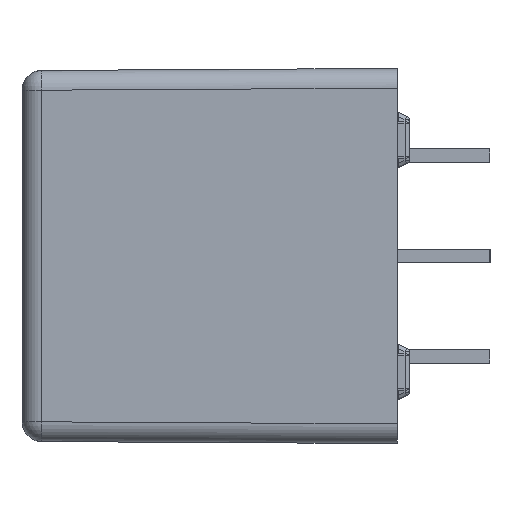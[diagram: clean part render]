
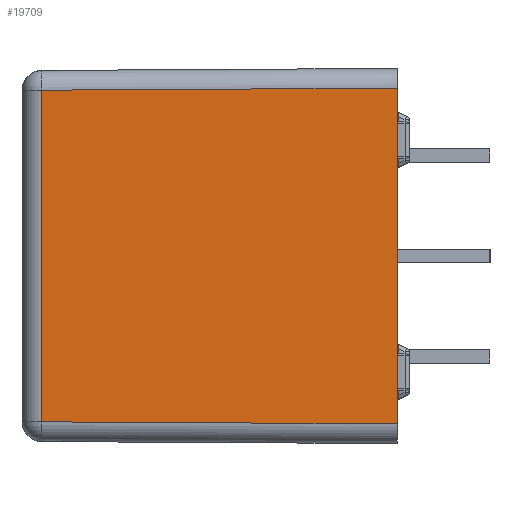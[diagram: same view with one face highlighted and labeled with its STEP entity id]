
A CAD part, left-side view. The second image highlights one B-rep face of the part: STEP entity #19709.
In plain terms, the highlighted planar face has unit normal (-1, 0.006, 0).
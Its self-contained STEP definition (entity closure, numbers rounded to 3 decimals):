
#596 = EDGE_CURVE ( 'NONE', #834, #6317, #8664, .T. ) ;
#795 = LINE ( 'NONE', #10530, #20631 ) ;
#834 = VERTEX_POINT ( 'NONE', #25848 ) ;
#1743 = CARTESIAN_POINT ( 'NONE',  ( -34., -9.5, 8.5 ) ) ;
#1766 = DIRECTION ( 'NONE',  ( -0.006, -1., -0.006 ) ) ;
#2389 = VECTOR ( 'NONE', #21327, 1000. ) ;
#2534 = DIRECTION ( 'NONE',  ( -1., 0.006, 0. ) ) ;
#2853 = ORIENTED_EDGE ( 'NONE', *, *, #596, .T. ) ;
#2877 = CARTESIAN_POINT ( 'NONE',  ( -34., -9.5, -8.5 ) ) ;
#3636 = DIRECTION ( 'NONE',  ( 0., 0., -1. ) ) ;
#5351 = VECTOR ( 'NONE', #16916, 1000. ) ;
#5595 = VERTEX_POINT ( 'NONE', #9733 ) ;
#6317 = VERTEX_POINT ( 'NONE', #2877 ) ;
#6728 = DIRECTION ( 'NONE',  ( -0.006, -1., 0. ) ) ;
#8664 = LINE ( 'NONE', #10910, #29148 ) ;
#8967 = ORIENTED_EDGE ( 'NONE', *, *, #17915, .F. ) ;
#9648 = LINE ( 'NONE', #23265, #2389 ) ;
#9733 = CARTESIAN_POINT ( 'NONE',  ( -33.899, 8.506, 8.399 ) ) ;
#9876 = CARTESIAN_POINT ( 'NONE',  ( -34., -9.506, 8.5 ) ) ;
#9898 = EDGE_CURVE ( 'NONE', #29511, #5595, #18563, .T. ) ;
#10530 = CARTESIAN_POINT ( 'NONE',  ( -34., -9.5, 9.5 ) ) ;
#10910 = CARTESIAN_POINT ( 'NONE',  ( -34., -9.506, -8.5 ) ) ;
#12894 = ORIENTED_EDGE ( 'NONE', *, *, #9898, .T. ) ;
#13776 = PLANE ( 'NONE',  #21636 ) ;
#16916 = DIRECTION ( 'NONE',  ( 0.006, 1., -0.006 ) ) ;
#17175 = ORIENTED_EDGE ( 'NONE', *, *, #27036, .T. ) ;
#17915 = EDGE_CURVE ( 'NONE', #29511, #6317, #795, .T. ) ;
#18563 = LINE ( 'NONE', #9876, #5351 ) ;
#19709 = ADVANCED_FACE ( 'NONE', ( #29330 ), #13776, .T. ) ;
#20631 = VECTOR ( 'NONE', #3636, 1000. ) ;
#21327 = DIRECTION ( 'NONE',  ( 0., 0., -1. ) ) ;
#21636 = AXIS2_PLACEMENT_3D ( 'NONE', #24990, #2534, #6728 ) ;
#23265 = CARTESIAN_POINT ( 'NONE',  ( -33.899, 8.506, 9.5 ) ) ;
#24990 = CARTESIAN_POINT ( 'NONE',  ( -34., -9.5, 9.5 ) ) ;
#25848 = CARTESIAN_POINT ( 'NONE',  ( -33.899, 8.506, -8.399 ) ) ;
#26627 = EDGE_LOOP ( 'NONE', ( #12894, #17175, #2853, #8967 ) ) ;
#27036 = EDGE_CURVE ( 'NONE', #5595, #834, #9648, .T. ) ;
#29148 = VECTOR ( 'NONE', #1766, 1000. ) ;
#29330 = FACE_OUTER_BOUND ( 'NONE', #26627, .T. ) ;
#29511 = VERTEX_POINT ( 'NONE', #1743 ) ;
